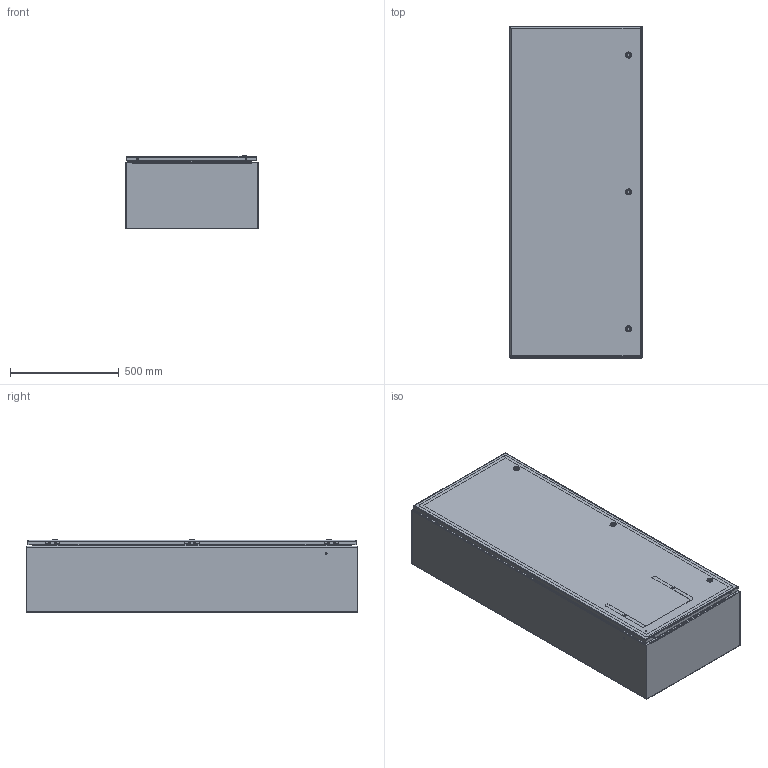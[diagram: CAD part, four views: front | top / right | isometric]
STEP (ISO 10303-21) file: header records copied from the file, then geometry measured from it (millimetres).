
FILE_DESCRIPTION((''),'2;1');
FILE_NAME('MODEL-205_ASM','2010-09-09T',('mikek'),(''),'PRO/ENGINEER BY PARAMETRIC TECHNOLOGY CORPORATION, 2009230','PRO/ENGINEER BY PARAMETRIC TECHNOLOGY CORPORATION, 2009230','');
FILE_SCHEMA(('AUTOMOTIVE_DESIGN { 1 0 10303 214 1 1 1 1 }'));
Length unit declared in the file: inch
Products named in the file (27): MODEL-205-BDY; MODEL-205-TP; MODEL-205-BTM; MODEL-205-DR; 101376; 101376-PIN; 101670; 102140; 102483; 101686; 103294_ASM; 100837; 111267; 100877; 103306_ASM; 101653; 100794_SHAFT; 100794_INSERT; 102804_CAM_28MM; 100794_NUT; 100794_SCREW; 100794_ASM; 102297; 102299; 101974; MODEL-205-GSKT; MODEL-205_ASM
Assembly tree (43 placements, depth 3):
  MODEL-205_ASM
    MODEL-205-BDY
    MODEL-205-TP
    MODEL-205-BTM
    MODEL-205-DR
    103294_ASM  x3
      101376
      101376-PIN
      101670
      102140
      102483
      101686
    101686  x3
    100837  x4
    103306_ASM
      111267
      100877  x2
    101653  x6
    100794_ASM  x3
      100794_SHAFT
      100794_INSERT
      102804_CAM_28MM
      100794_NUT
      100794_SCREW
    102297
    102299
    101974
    MODEL-205-GSKT
Bounding box: 609.6 x 1524 x 336.05 mm (x, y, z)
Volume: 7257150.6 mm3; surface area: 7199378.4 mm2
Topology: 50 solids, 65 shells, 3766 faces, 9753 edges, 6223 vertices
Faces by surface type: plane 2221, cylinder 1011, bspline 193, torus 181, cone 109, sphere 47, extrusion 4
Entity records: 80002 total; most frequent: CARTESIAN_POINT 16712, ORIENTED_EDGE 10540, DIRECTION 10083, EDGE_CURVE 5274, PRESENTATION_STYLE_ASSIGNMENT 4005, STYLED_ITEM 3969, CURVE_STYLE 3946, VECTOR 3793
